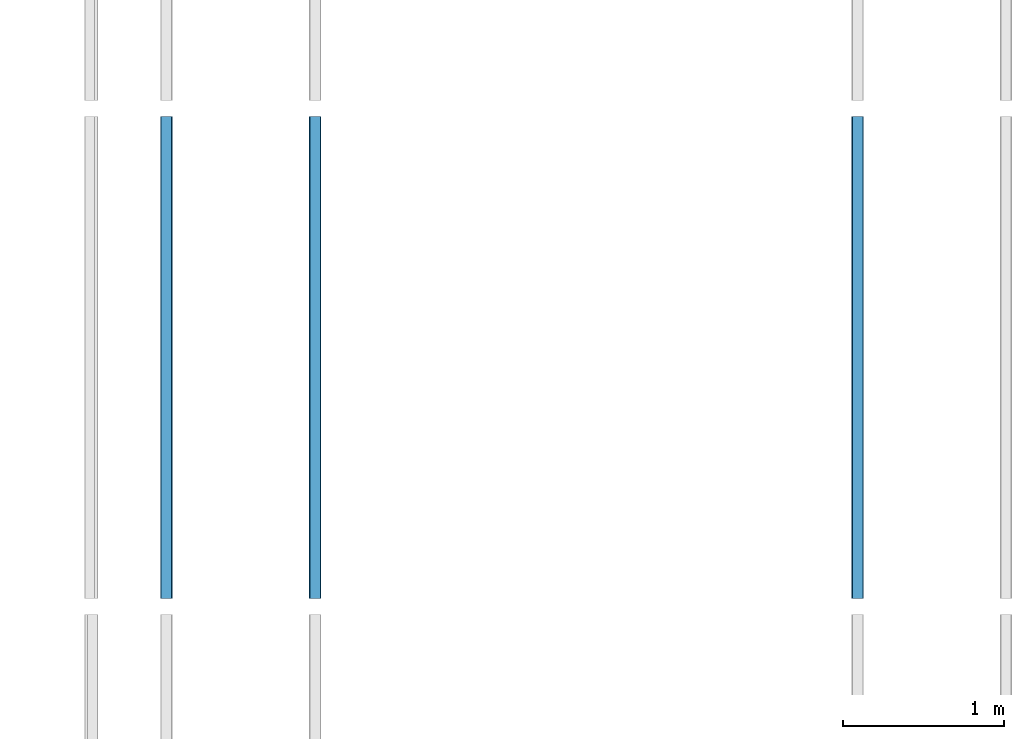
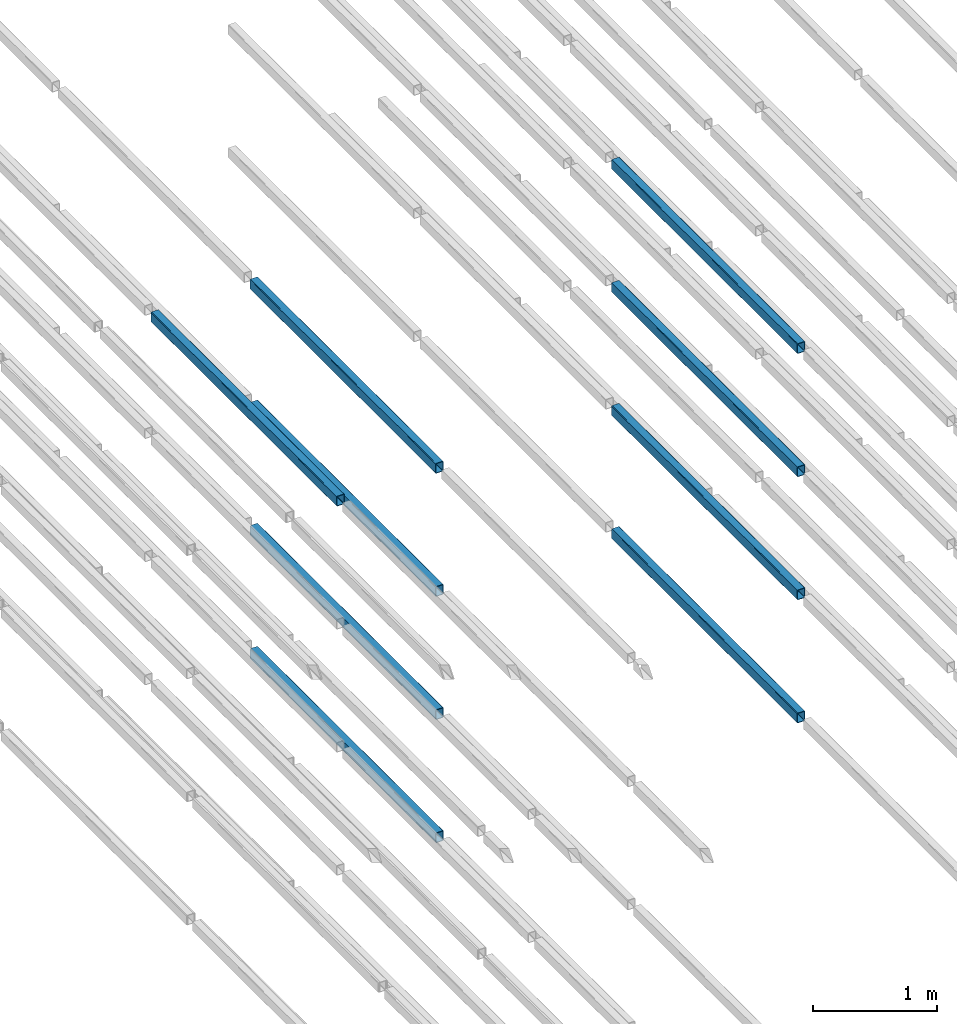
# One storey, part 62 of 290: 9 beams.
"""IFC2X3 building model written with IfcOpenShell, lengths in metres."""

from ifc_helpers import new_model, entity, si_unit, converted_unit, derived_unit, direction, frame, frame_2d, origin, place, context, subcontext, project, spatial, polyline, circle_curve, parameter, trimmed, segment, composite_curve, outline, extrude, material, type_object, element, save


model = new_model("IFC2X3")

# Units and contexts
model_context = context("Model", 3, precision=1e-05, world=origin(), true_north=direction((6.12303176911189e-17, 1.0)))
body_context = subcontext(model_context, "Body", "Model", "MODEL_VIEW")
ifc_project = project(units=[si_unit("LENGTHUNIT", "METRE"), si_unit("AREAUNIT", "SQUARE_METRE"), si_unit("VOLUMEUNIT", "CUBIC_METRE"), converted_unit("PLANEANGLEUNIT", "DEGREE", entity("IfcRatioMeasure", 0.0174532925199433), si_unit("PLANEANGLEUNIT", "RADIAN"), dimensions=[0, 0, 0, 0, 0, 0, 0]), si_unit("MASSUNIT", "GRAM", prefix="KILO"), derived_unit("MASSDENSITYUNIT", [(si_unit("MASSUNIT", "GRAM", prefix="KILO"), 1), (si_unit("LENGTHUNIT", "METRE"), -3)]), derived_unit("MOMENTOFINERTIAUNIT", [(si_unit("LENGTHUNIT", "METRE"), 4)]), si_unit("TIMEUNIT", "SECOND"), si_unit("FREQUENCYUNIT", "HERTZ"), si_unit("THERMODYNAMICTEMPERATUREUNIT", "DEGREE_CELSIUS"), derived_unit("THERMALTRANSMITTANCEUNIT", [(si_unit("MASSUNIT", "GRAM", prefix="KILO"), 1), (si_unit("THERMODYNAMICTEMPERATUREUNIT", "KELVIN"), -1), (si_unit("TIMEUNIT", "SECOND"), -3)]), derived_unit("VOLUMETRICFLOWRATEUNIT", [(si_unit("LENGTHUNIT", "METRE"), 3), (si_unit("TIMEUNIT", "SECOND"), -1)]), si_unit("ELECTRICCURRENTUNIT", "AMPERE"), si_unit("ELECTRICVOLTAGEUNIT", "VOLT"), si_unit("POWERUNIT", "WATT"), si_unit("FORCEUNIT", "NEWTON", prefix="KILO"), si_unit("ILLUMINANCEUNIT", "LUX"), si_unit("LUMINOUSFLUXUNIT", "LUMEN"), si_unit("LUMINOUSINTENSITYUNIT", "CANDELA"), derived_unit("USERDEFINED", [(si_unit("MASSUNIT", "GRAM", prefix="KILO"), -1), (si_unit("LENGTHUNIT", "METRE"), -2), (si_unit("TIMEUNIT", "SECOND"), 3), (si_unit("LUMINOUSFLUXUNIT", "LUMEN"), 1)]), derived_unit("LINEARVELOCITYUNIT", [(si_unit("LENGTHUNIT", "METRE"), 1), (si_unit("TIMEUNIT", "SECOND"), -1)]), si_unit("PRESSUREUNIT", "PASCAL"), derived_unit("USERDEFINED", [(si_unit("LENGTHUNIT", "METRE"), -2), (si_unit("MASSUNIT", "GRAM", prefix="KILO"), 1), (si_unit("TIMEUNIT", "SECOND"), -2)]), derived_unit("LINEARFORCEUNIT", [(si_unit("MASSUNIT", "GRAM", prefix="KILO"), 1), (si_unit("LENGTHUNIT", "METRE"), 1), (si_unit("TIMEUNIT", "SECOND"), -2), (si_unit("LENGTHUNIT", "METRE"), -1)]), derived_unit("PLANARFORCEUNIT", [(si_unit("MASSUNIT", "GRAM", prefix="KILO"), 1), (si_unit("LENGTHUNIT", "METRE"), 1), (si_unit("TIMEUNIT", "SECOND"), -2), (si_unit("LENGTHUNIT", "METRE"), -2)])], contexts=[model_context])

# Site, building, storey
site_placement = place(None, origin())
site = spatial("IfcSite", under=ifc_project, at=site_placement, Name="Default", CompositionType="ELEMENT")
building_placement = place(site_placement, origin())
building = spatial("IfcBuilding", under=site, at=building_placement, CompositionType="ELEMENT")
storey_placement = place(building_placement, frame((0.0, 0.0, 4.0)))
storey = spatial("IfcBuildingStorey", under=building, at=storey_placement, Name="01_OG", CompositionType="ELEMENT", Elevation=4.0)

# Beams
ifc_material = material(Name="Metall - Baustahl S235 blau")
beam_type = type_object("IfcBeamType", Name="RHS Träger (EN 10219-2):RHS 100 x 75 x 5", PredefinedType="NOTDEFINED")
beam_1_placement = place(storey_placement, frame((-196.415111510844, 42.648088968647, -1.2), z_axis=(0.0, 0.0, 1.0), x_axis=(0.0, 1.0, 0.0)))
element("IfcBeam", 1, at=beam_1_placement, inside=storey, type_object=beam_type, material=ifc_material, Name="RHS Träger (EN 10219-2):RHS 100 x 75 x 5", ObjectType="RHS Träger (EN 10219-2):RHS 100 x 75 x 5", context=body_context, shape_type="SweptSolid", body=[
    extrude(outline(composite_curve([segment(trimmed(circle_curve(frame_2d((-0.0274999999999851, -0.0400000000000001), x_axis=(1.0, 0.0)), 0.01), [parameter(180.0)], [parameter(270.0)], True, "PARAMETER"), True, "CONTINUOUS"), segment(polyline([(-0.0274999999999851, -0.05), (0.0274999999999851, -0.05)]), True, "CONTINUOUS"), segment(trimmed(circle_curve(frame_2d((0.0274999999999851, -0.0400000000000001), x_axis=(1.0, 0.0)), 0.01), [parameter(270.0)], [parameter(5.08888749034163e-14)], True, "PARAMETER"), True, "CONTINUOUS"), segment(polyline([(0.0375000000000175, -0.0400000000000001), (0.0375000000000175, 0.0400000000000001)]), True, "CONTINUOUS"), segment(trimmed(circle_curve(frame_2d((0.0274999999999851, 0.0400000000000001), x_axis=(1.0, 0.0)), 0.01), [parameter(360.0)], [parameter(89.9999999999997)], True, "PARAMETER"), True, "CONTINUOUS"), segment(polyline([(0.0274999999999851, 0.05), (-0.0274999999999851, 0.05)]), True, "CONTINUOUS"), segment(trimmed(circle_curve(frame_2d((-0.0274999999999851, 0.0400000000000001), x_axis=(1.0, 0.0)), 0.01), [parameter(90.0000000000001)], [parameter(180.0)], True, "PARAMETER"), True, "CONTINUOUS"), segment(polyline([(-0.0374999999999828, 0.0400000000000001), (-0.0374999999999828, -0.0400000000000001)]), True, "CONTINUOUS")], self_intersect=False), holes=[composite_curve([segment(polyline([(0.0274999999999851, -0.0450000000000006), (-0.0274999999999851, -0.0450000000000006)]), True, "CONTINUOUS"), segment(trimmed(circle_curve(frame_2d((-0.0274999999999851, -0.0400000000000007), x_axis=(1.0, 0.0)), 0.005), [parameter(180.0)], [parameter(270.0)], True, "PARAMETER"), False, "CONTINUOUS"), segment(polyline([(-0.0325000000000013, -0.0400000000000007), (-0.0325000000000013, 0.039999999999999)]), True, "CONTINUOUS"), segment(trimmed(circle_curve(frame_2d((-0.0274999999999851, 0.039999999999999), x_axis=(1.0, 0.0)), 0.005), [parameter(90.0000000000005)], [parameter(180.0)], True, "PARAMETER"), False, "CONTINUOUS"), segment(polyline([(-0.0274999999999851, 0.044999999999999), (0.0274999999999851, 0.044999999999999)]), True, "CONTINUOUS"), segment(trimmed(circle_curve(frame_2d((0.0274999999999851, 0.039999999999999), x_axis=(1.0, 0.0)), 0.005), [parameter(0.0)], [parameter(90.0000000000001)], True, "PARAMETER"), False, "CONTINUOUS"), segment(polyline([(0.0325000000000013, 0.039999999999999), (0.0325000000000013, -0.0400000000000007)]), True, "CONTINUOUS"), segment(trimmed(circle_curve(frame_2d((0.0274999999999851, -0.0400000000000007), x_axis=(1.0, 0.0)), 0.005), [parameter(270.0)], [parameter(4.07110999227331e-13)], True, "PARAMETER"), False, "CONTINUOUS")], self_intersect=False)]), frame((9.99999999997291e-05, 0.0375000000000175, -0.0500000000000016), z_axis=(1.0, 0.0, 0.0), x_axis=(0.0, -1.0, 0.0)), (0.0, 0.0, 1.0), 2.99979999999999),
])
beam_2_placement = place(storey_placement, frame((-196.415111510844, 42.648088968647, 0.0150000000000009), z_axis=(0.0, 0.0, 1.0), x_axis=(0.0, 1.0, 0.0)))
element("IfcBeam", 2, at=beam_2_placement, inside=storey, type_object=beam_type, material=ifc_material, Name="RHS Träger (EN 10219-2):RHS 100 x 75 x 5", ObjectType="RHS Träger (EN 10219-2):RHS 100 x 75 x 5", context=body_context, shape_type="SweptSolid", body=[
    extrude(outline(composite_curve([segment(trimmed(circle_curve(frame_2d((-0.0274999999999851, -0.0400000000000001), x_axis=(1.0, 0.0)), 0.01), [parameter(180.0)], [parameter(270.0)], True, "PARAMETER"), True, "CONTINUOUS"), segment(polyline([(-0.0274999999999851, -0.05), (0.0274999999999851, -0.05)]), True, "CONTINUOUS"), segment(trimmed(circle_curve(frame_2d((0.0274999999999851, -0.0400000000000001), x_axis=(1.0, 0.0)), 0.01), [parameter(270.0)], [parameter(5.08888749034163e-14)], True, "PARAMETER"), True, "CONTINUOUS"), segment(polyline([(0.0375000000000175, -0.0400000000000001), (0.0375000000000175, 0.0400000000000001)]), True, "CONTINUOUS"), segment(trimmed(circle_curve(frame_2d((0.0274999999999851, 0.0400000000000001), x_axis=(1.0, 0.0)), 0.01), [parameter(360.0)], [parameter(89.9999999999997)], True, "PARAMETER"), True, "CONTINUOUS"), segment(polyline([(0.0274999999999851, 0.05), (-0.0274999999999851, 0.05)]), True, "CONTINUOUS"), segment(trimmed(circle_curve(frame_2d((-0.0274999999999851, 0.0400000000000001), x_axis=(1.0, 0.0)), 0.01), [parameter(90.0000000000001)], [parameter(180.0)], True, "PARAMETER"), True, "CONTINUOUS"), segment(polyline([(-0.0374999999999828, 0.0400000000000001), (-0.0374999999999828, -0.0400000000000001)]), True, "CONTINUOUS")], self_intersect=False), holes=[composite_curve([segment(polyline([(0.0274999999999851, -0.0450000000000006), (-0.0274999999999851, -0.0450000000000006)]), True, "CONTINUOUS"), segment(trimmed(circle_curve(frame_2d((-0.0274999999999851, -0.0400000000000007), x_axis=(1.0, 0.0)), 0.005), [parameter(180.0)], [parameter(270.0)], True, "PARAMETER"), False, "CONTINUOUS"), segment(polyline([(-0.0325000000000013, -0.0400000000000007), (-0.0325000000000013, 0.039999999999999)]), True, "CONTINUOUS"), segment(trimmed(circle_curve(frame_2d((-0.0274999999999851, 0.039999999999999), x_axis=(1.0, 0.0)), 0.005), [parameter(90.0000000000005)], [parameter(180.0)], True, "PARAMETER"), False, "CONTINUOUS"), segment(polyline([(-0.0274999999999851, 0.044999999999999), (0.0274999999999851, 0.044999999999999)]), True, "CONTINUOUS"), segment(trimmed(circle_curve(frame_2d((0.0274999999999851, 0.039999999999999), x_axis=(1.0, 0.0)), 0.005), [parameter(0.0)], [parameter(90.0000000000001)], True, "PARAMETER"), False, "CONTINUOUS"), segment(polyline([(0.0325000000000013, 0.039999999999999), (0.0325000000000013, -0.0400000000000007)]), True, "CONTINUOUS"), segment(trimmed(circle_curve(frame_2d((0.0274999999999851, -0.0400000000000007), x_axis=(1.0, 0.0)), 0.005), [parameter(270.0)], [parameter(4.07110999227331e-13)], True, "PARAMETER"), False, "CONTINUOUS")], self_intersect=False)]), frame((9.99999999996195e-05, 0.0375000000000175, -0.0500000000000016), z_axis=(1.0, 0.0, 0.0), x_axis=(0.0, -1.0, 0.0)), (0.0, 0.0, 1.0), 2.99979999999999),
])
beam_3_placement = place(storey_placement, frame((-196.415111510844, 42.648088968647, 1.23), z_axis=(0.0, 0.0, 1.0), x_axis=(0.0, 1.0, 0.0)))
element("IfcBeam", 3, at=beam_3_placement, inside=storey, type_object=beam_type, material=ifc_material, Name="RHS Träger (EN 10219-2):RHS 100 x 75 x 5", ObjectType="RHS Träger (EN 10219-2):RHS 100 x 75 x 5", context=body_context, shape_type="SweptSolid", body=[
    extrude(outline(composite_curve([segment(trimmed(circle_curve(frame_2d((-0.0274999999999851, -0.0399999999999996), x_axis=(1.0, 0.0)), 0.01), [parameter(180.0)], [parameter(270.0)], True, "PARAMETER"), True, "CONTINUOUS"), segment(polyline([(-0.0274999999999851, -0.0499999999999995), (0.0274999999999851, -0.0499999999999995)]), True, "CONTINUOUS"), segment(trimmed(circle_curve(frame_2d((0.0274999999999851, -0.0399999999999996), x_axis=(1.0, 0.0)), 0.01), [parameter(270.0)], [parameter(5.08888749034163e-14)], True, "PARAMETER"), True, "CONTINUOUS"), segment(polyline([(0.0375000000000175, -0.0399999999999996), (0.0375000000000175, 0.0399999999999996)]), True, "CONTINUOUS"), segment(trimmed(circle_curve(frame_2d((0.0274999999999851, 0.0399999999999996), x_axis=(1.0, 0.0)), 0.01), [parameter(360.0)], [parameter(89.9999999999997)], True, "PARAMETER"), True, "CONTINUOUS"), segment(polyline([(0.0274999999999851, 0.0500000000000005), (-0.0274999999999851, 0.0500000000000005)]), True, "CONTINUOUS"), segment(trimmed(circle_curve(frame_2d((-0.0274999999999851, 0.0399999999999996), x_axis=(1.0, 0.0)), 0.01), [parameter(90.0000000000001)], [parameter(180.0)], True, "PARAMETER"), True, "CONTINUOUS"), segment(polyline([(-0.0374999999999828, 0.0399999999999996), (-0.0374999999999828, -0.0399999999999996)]), True, "CONTINUOUS")], self_intersect=False), holes=[composite_curve([segment(polyline([(0.0274999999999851, -0.0450000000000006), (-0.0274999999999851, -0.0450000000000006)]), True, "CONTINUOUS"), segment(trimmed(circle_curve(frame_2d((-0.0274999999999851, -0.0400000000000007), x_axis=(1.0, 0.0)), 0.005), [parameter(180.0)], [parameter(270.0)], True, "PARAMETER"), False, "CONTINUOUS"), segment(polyline([(-0.0325000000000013, -0.0400000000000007), (-0.0325000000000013, 0.0399999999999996)]), True, "CONTINUOUS"), segment(trimmed(circle_curve(frame_2d((-0.0274999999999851, 0.0399999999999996), x_axis=(1.0, 0.0)), 0.005), [parameter(90.0000000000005)], [parameter(180.0)], True, "PARAMETER"), False, "CONTINUOUS"), segment(polyline([(-0.0274999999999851, 0.0449999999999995), (0.0274999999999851, 0.0449999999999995)]), True, "CONTINUOUS"), segment(trimmed(circle_curve(frame_2d((0.0274999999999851, 0.0399999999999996), x_axis=(1.0, 0.0)), 0.005), [parameter(0.0)], [parameter(90.0000000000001)], True, "PARAMETER"), False, "CONTINUOUS"), segment(polyline([(0.0325000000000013, 0.0399999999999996), (0.0325000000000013, -0.0400000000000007)]), True, "CONTINUOUS"), segment(trimmed(circle_curve(frame_2d((0.0274999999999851, -0.0400000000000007), x_axis=(1.0, 0.0)), 0.005), [parameter(270.0)], [parameter(4.07110999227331e-13)], True, "PARAMETER"), False, "CONTINUOUS")], self_intersect=False)]), frame((9.99999999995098e-05, 0.0375000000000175, -0.0500000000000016), z_axis=(1.0, 0.0, 0.0), x_axis=(0.0, -1.0, 0.0)), (0.0, 0.0, 1.0), 2.99979999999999),
])
beam_4_placement = place(storey_placement, frame((-196.415111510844, 42.648088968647, 2.445), z_axis=(0.0, 0.0, 1.0), x_axis=(0.0, 1.0, 0.0)))
element("IfcBeam", 4, at=beam_4_placement, inside=storey, type_object=beam_type, material=ifc_material, Name="RHS Träger (EN 10219-2):RHS 100 x 75 x 5", ObjectType="RHS Träger (EN 10219-2):RHS 100 x 75 x 5", context=body_context, shape_type="SweptSolid", body=[
    extrude(outline(composite_curve([segment(trimmed(circle_curve(frame_2d((-0.0274999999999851, -0.0399999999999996), x_axis=(1.0, 0.0)), 0.01), [parameter(180.0)], [parameter(270.0)], True, "PARAMETER"), True, "CONTINUOUS"), segment(polyline([(-0.0274999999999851, -0.0499999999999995), (0.0274999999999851, -0.0499999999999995)]), True, "CONTINUOUS"), segment(trimmed(circle_curve(frame_2d((0.0274999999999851, -0.0399999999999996), x_axis=(1.0, 0.0)), 0.01), [parameter(270.0)], [parameter(5.08888749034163e-14)], True, "PARAMETER"), True, "CONTINUOUS"), segment(polyline([(0.0375000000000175, -0.0399999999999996), (0.0375000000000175, 0.0399999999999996)]), True, "CONTINUOUS"), segment(trimmed(circle_curve(frame_2d((0.0274999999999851, 0.0399999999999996), x_axis=(1.0, 0.0)), 0.01), [parameter(360.0)], [parameter(89.9999999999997)], True, "PARAMETER"), True, "CONTINUOUS"), segment(polyline([(0.0274999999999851, 0.0500000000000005), (-0.0274999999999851, 0.0500000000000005)]), True, "CONTINUOUS"), segment(trimmed(circle_curve(frame_2d((-0.0274999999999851, 0.0399999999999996), x_axis=(1.0, 0.0)), 0.01), [parameter(90.0000000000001)], [parameter(180.0)], True, "PARAMETER"), True, "CONTINUOUS"), segment(polyline([(-0.0374999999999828, 0.0399999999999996), (-0.0374999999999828, -0.0399999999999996)]), True, "CONTINUOUS")], self_intersect=False), holes=[composite_curve([segment(polyline([(0.0274999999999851, -0.0450000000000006), (-0.0274999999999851, -0.0450000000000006)]), True, "CONTINUOUS"), segment(trimmed(circle_curve(frame_2d((-0.0274999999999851, -0.0400000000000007), x_axis=(1.0, 0.0)), 0.005), [parameter(180.0)], [parameter(270.0)], True, "PARAMETER"), False, "CONTINUOUS"), segment(polyline([(-0.0325000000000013, -0.0400000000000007), (-0.0325000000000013, 0.0399999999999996)]), True, "CONTINUOUS"), segment(trimmed(circle_curve(frame_2d((-0.0274999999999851, 0.0399999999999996), x_axis=(1.0, 0.0)), 0.005), [parameter(90.0000000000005)], [parameter(180.0)], True, "PARAMETER"), False, "CONTINUOUS"), segment(polyline([(-0.0274999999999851, 0.0449999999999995), (0.0274999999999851, 0.0449999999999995)]), True, "CONTINUOUS"), segment(trimmed(circle_curve(frame_2d((0.0274999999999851, 0.0399999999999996), x_axis=(1.0, 0.0)), 0.005), [parameter(0.0)], [parameter(90.0000000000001)], True, "PARAMETER"), False, "CONTINUOUS"), segment(polyline([(0.0325000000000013, 0.0399999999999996), (0.0325000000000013, -0.0400000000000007)]), True, "CONTINUOUS"), segment(trimmed(circle_curve(frame_2d((0.0274999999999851, -0.0400000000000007), x_axis=(1.0, 0.0)), 0.005), [parameter(270.0)], [parameter(4.07110999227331e-13)], True, "PARAMETER"), False, "CONTINUOUS")], self_intersect=False)]), frame((9.99999999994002e-05, 0.0375000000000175, -0.0500000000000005), z_axis=(1.0, 0.0, 0.0), x_axis=(0.0, -1.0, 0.0)), (0.0, 0.0, 1.0), 2.99979999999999),
])
beam_5_placement = place(storey_placement, frame((-200.715111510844, 42.648088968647, 2.445), z_axis=(0.0, 0.0, 1.0), x_axis=(0.0, 1.0, 0.0)))
element("IfcBeam", 5, at=beam_5_placement, inside=storey, type_object=beam_type, material=ifc_material, Name="RHS Träger (EN 10219-2):RHS 100 x 75 x 5", ObjectType="RHS Träger (EN 10219-2):RHS 100 x 75 x 5", context=body_context, shape_type="SweptSolid", body=[
    extrude(outline(composite_curve([segment(trimmed(circle_curve(frame_2d((-0.0274999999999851, -0.0399999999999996), x_axis=(1.0, 0.0)), 0.01), [parameter(180.0)], [parameter(270.0)], True, "PARAMETER"), True, "CONTINUOUS"), segment(polyline([(-0.0274999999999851, -0.0499999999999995), (0.0274999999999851, -0.0499999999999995)]), True, "CONTINUOUS"), segment(trimmed(circle_curve(frame_2d((0.0274999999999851, -0.0399999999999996), x_axis=(1.0, 0.0)), 0.01), [parameter(270.0)], [parameter(5.08888749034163e-14)], True, "PARAMETER"), True, "CONTINUOUS"), segment(polyline([(0.0375000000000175, -0.0399999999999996), (0.0375000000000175, 0.0399999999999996)]), True, "CONTINUOUS"), segment(trimmed(circle_curve(frame_2d((0.0274999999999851, 0.0399999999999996), x_axis=(1.0, 0.0)), 0.01), [parameter(360.0)], [parameter(89.9999999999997)], True, "PARAMETER"), True, "CONTINUOUS"), segment(polyline([(0.0274999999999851, 0.0500000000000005), (-0.0274999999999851, 0.0500000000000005)]), True, "CONTINUOUS"), segment(trimmed(circle_curve(frame_2d((-0.0274999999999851, 0.0399999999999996), x_axis=(1.0, 0.0)), 0.01), [parameter(90.0000000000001)], [parameter(180.0)], True, "PARAMETER"), True, "CONTINUOUS"), segment(polyline([(-0.0374999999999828, 0.0399999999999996), (-0.0374999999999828, -0.0399999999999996)]), True, "CONTINUOUS")], self_intersect=False), holes=[composite_curve([segment(polyline([(0.0274999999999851, -0.0450000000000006), (-0.0274999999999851, -0.0450000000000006)]), True, "CONTINUOUS"), segment(trimmed(circle_curve(frame_2d((-0.0274999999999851, -0.0400000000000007), x_axis=(1.0, 0.0)), 0.005), [parameter(180.0)], [parameter(270.0)], True, "PARAMETER"), False, "CONTINUOUS"), segment(polyline([(-0.0325000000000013, -0.0400000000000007), (-0.0325000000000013, 0.0399999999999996)]), True, "CONTINUOUS"), segment(trimmed(circle_curve(frame_2d((-0.0274999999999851, 0.0399999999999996), x_axis=(1.0, 0.0)), 0.005), [parameter(90.0000000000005)], [parameter(180.0)], True, "PARAMETER"), False, "CONTINUOUS"), segment(polyline([(-0.0274999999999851, 0.0449999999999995), (0.0274999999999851, 0.0449999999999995)]), True, "CONTINUOUS"), segment(trimmed(circle_curve(frame_2d((0.0274999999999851, 0.0399999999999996), x_axis=(1.0, 0.0)), 0.005), [parameter(0.0)], [parameter(90.0000000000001)], True, "PARAMETER"), False, "CONTINUOUS"), segment(polyline([(0.0325000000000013, 0.0399999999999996), (0.0325000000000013, -0.0400000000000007)]), True, "CONTINUOUS"), segment(trimmed(circle_curve(frame_2d((0.0274999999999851, -0.0400000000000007), x_axis=(1.0, 0.0)), 0.005), [parameter(270.0)], [parameter(4.07110999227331e-13)], True, "PARAMETER"), False, "CONTINUOUS")], self_intersect=False)]), frame((0.000100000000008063, 0.0375000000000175, -0.0500000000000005), z_axis=(1.0, 0.0, 0.0), x_axis=(0.0, -1.0, 0.0)), (0.0, 0.0, 1.0), 2.99979999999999),
])
beam_6_placement = place(storey_placement, frame((-199.865111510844, 42.648088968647, -1.2), z_axis=(0.0, 0.0, 1.0), x_axis=(0.0, 1.0, 0.0)))
element("IfcBeam", 6, at=beam_6_placement, inside=storey, type_object=beam_type, material=ifc_material, Name="RHS Träger (EN 10219-2):RHS 100 x 75 x 5", ObjectType="RHS Träger (EN 10219-2):RHS 100 x 75 x 5", context=body_context, shape_type="SweptSolid", body=[
    extrude(outline(composite_curve([segment(polyline([(-0.0400000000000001, -0.0374999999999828), (0.0400000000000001, -0.0374999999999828)]), True, "CONTINUOUS"), segment(trimmed(circle_curve(frame_2d((0.0400000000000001, -0.0274999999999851), x_axis=(0.0, 1.0)), 0.01), [parameter(180.0)], [parameter(270.0)], True, "PARAMETER"), True, "CONTINUOUS"), segment(polyline([(0.05, -0.0274999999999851), (0.05, 0.0274999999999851)]), True, "CONTINUOUS"), segment(trimmed(circle_curve(frame_2d((0.0400000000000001, 0.0274999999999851), x_axis=(0.0, 1.0)), 0.01), [parameter(270.0)], [parameter(4.07110999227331e-13)], True, "PARAMETER"), True, "CONTINUOUS"), segment(polyline([(0.0400000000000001, 0.0375000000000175), (-0.0400000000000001, 0.0375000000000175)]), True, "CONTINUOUS"), segment(trimmed(circle_curve(frame_2d((-0.0400000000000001, 0.0274999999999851), x_axis=(0.0, 1.0)), 0.01), [parameter(360.0)], [parameter(90.0000000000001)], True, "PARAMETER"), True, "CONTINUOUS"), segment(polyline([(-0.05, 0.0274999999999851), (-0.05, -0.0274999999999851)]), True, "CONTINUOUS"), segment(trimmed(circle_curve(frame_2d((-0.0400000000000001, -0.0274999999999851), x_axis=(0.0, 1.0)), 0.01), [parameter(90.0000000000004)], [parameter(180.0)], True, "PARAMETER"), True, "CONTINUOUS")], self_intersect=False), holes=[composite_curve([segment(trimmed(circle_curve(frame_2d((-0.0400000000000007, 0.0274999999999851), x_axis=(0.0, 1.0)), 0.005), [parameter(360.0)], [parameter(89.9999999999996)], True, "PARAMETER"), False, "CONTINUOUS"), segment(polyline([(-0.0400000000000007, 0.0325000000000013), (0.039999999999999, 0.0325000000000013)]), True, "CONTINUOUS"), segment(trimmed(circle_curve(frame_2d((0.039999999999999, 0.0274999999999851), x_axis=(0.0, 1.0)), 0.005), [parameter(270.0)], [parameter(0.0)], True, "PARAMETER"), False, "CONTINUOUS"), segment(polyline([(0.044999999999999, 0.0274999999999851), (0.044999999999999, -0.0274999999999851)]), True, "CONTINUOUS"), segment(trimmed(circle_curve(frame_2d((0.039999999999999, -0.0274999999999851), x_axis=(0.0, 1.0)), 0.005), [parameter(180.0)], [parameter(269.999999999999)], True, "PARAMETER"), False, "CONTINUOUS"), segment(polyline([(0.039999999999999, -0.0325000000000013), (-0.0400000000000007, -0.0325000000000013)]), True, "CONTINUOUS"), segment(trimmed(circle_curve(frame_2d((-0.0400000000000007, -0.0274999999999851), x_axis=(0.0, 1.0)), 0.005), [parameter(90.0000000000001)], [parameter(180.0)], True, "PARAMETER"), False, "CONTINUOUS"), segment(polyline([(-0.0450000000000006, -0.0274999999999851), (-0.0450000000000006, 0.0274999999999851)]), True, "CONTINUOUS")], self_intersect=False)]), frame((0.000100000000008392, -0.0375000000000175, -0.0500000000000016), z_axis=(1.0, 0.0, 0.0), x_axis=(0.0, 0.0, -1.0)), (0.0, 0.0, 1.0), 2.99979999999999),
])
beam_7_placement = place(storey_placement, frame((-199.865111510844, 42.648088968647, 0.0150000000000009), z_axis=(0.0, 0.0, 1.0), x_axis=(0.0, 1.0, 0.0)))
element("IfcBeam", 7, at=beam_7_placement, inside=storey, type_object=beam_type, material=ifc_material, Name="RHS Träger (EN 10219-2):RHS 100 x 75 x 5", ObjectType="RHS Träger (EN 10219-2):RHS 100 x 75 x 5", context=body_context, shape_type="SweptSolid", body=[
    extrude(outline(composite_curve([segment(polyline([(-0.0400000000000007, -0.0374999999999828), (0.0399999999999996, -0.0374999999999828)]), True, "CONTINUOUS"), segment(trimmed(circle_curve(frame_2d((0.0399999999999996, -0.0274999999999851), x_axis=(0.0, 1.0)), 0.01), [parameter(180.0)], [parameter(270.0)], True, "PARAMETER"), True, "CONTINUOUS"), segment(polyline([(0.0499999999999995, -0.0274999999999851), (0.0499999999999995, 0.0274999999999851)]), True, "CONTINUOUS"), segment(trimmed(circle_curve(frame_2d((0.0399999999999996, 0.0274999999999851), x_axis=(0.0, 1.0)), 0.01), [parameter(270.0)], [parameter(4.07110999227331e-13)], True, "PARAMETER"), True, "CONTINUOUS"), segment(polyline([(0.0399999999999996, 0.0375000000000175), (-0.0400000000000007, 0.0375000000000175)]), True, "CONTINUOUS"), segment(trimmed(circle_curve(frame_2d((-0.0400000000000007, 0.0274999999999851), x_axis=(0.0, 1.0)), 0.01), [parameter(360.0)], [parameter(90.0000000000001)], True, "PARAMETER"), True, "CONTINUOUS"), segment(polyline([(-0.0500000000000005, 0.0274999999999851), (-0.0500000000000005, -0.0274999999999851)]), True, "CONTINUOUS"), segment(trimmed(circle_curve(frame_2d((-0.0400000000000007, -0.0274999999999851), x_axis=(0.0, 1.0)), 0.01), [parameter(90.0000000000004)], [parameter(180.0)], True, "PARAMETER"), True, "CONTINUOUS")], self_intersect=False), holes=[composite_curve([segment(trimmed(circle_curve(frame_2d((-0.0400000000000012, 0.0274999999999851), x_axis=(0.0, 1.0)), 0.005), [parameter(360.0)], [parameter(89.9999999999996)], True, "PARAMETER"), False, "CONTINUOUS"), segment(polyline([(-0.0400000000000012, 0.0325000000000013), (0.0399999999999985, 0.0325000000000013)]), True, "CONTINUOUS"), segment(trimmed(circle_curve(frame_2d((0.0399999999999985, 0.0274999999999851), x_axis=(0.0, 1.0)), 0.005), [parameter(270.0)], [parameter(0.0)], True, "PARAMETER"), False, "CONTINUOUS"), segment(polyline([(0.0449999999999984, 0.0274999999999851), (0.0449999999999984, -0.0274999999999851)]), True, "CONTINUOUS"), segment(trimmed(circle_curve(frame_2d((0.0399999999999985, -0.0274999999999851), x_axis=(0.0, 1.0)), 0.005), [parameter(180.0)], [parameter(269.999999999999)], True, "PARAMETER"), False, "CONTINUOUS"), segment(polyline([(0.0399999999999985, -0.0325000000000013), (-0.0400000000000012, -0.0325000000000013)]), True, "CONTINUOUS"), segment(trimmed(circle_curve(frame_2d((-0.0400000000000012, -0.0274999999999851), x_axis=(0.0, 1.0)), 0.005), [parameter(90.0000000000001)], [parameter(180.0)], True, "PARAMETER"), False, "CONTINUOUS"), segment(polyline([(-0.0450000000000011, -0.0274999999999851), (-0.0450000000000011, 0.0274999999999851)]), True, "CONTINUOUS")], self_intersect=False)]), frame((0.000100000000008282, -0.0375000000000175, -0.0500000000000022), z_axis=(1.0, 0.0, 0.0), x_axis=(0.0, 0.0, -1.0)), (0.0, 0.0, 1.0), 2.99979999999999),
])
beam_8_placement = place(storey_placement, frame((-199.865111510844, 42.648088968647, 1.23), z_axis=(0.0, 0.0, 1.0), x_axis=(0.0, 1.0, 0.0)))
element("IfcBeam", 8, at=beam_8_placement, inside=storey, type_object=beam_type, material=ifc_material, Name="RHS Träger (EN 10219-2):RHS 100 x 75 x 5", ObjectType="RHS Träger (EN 10219-2):RHS 100 x 75 x 5", context=body_context, shape_type="SweptSolid", body=[
    extrude(outline(composite_curve([segment(polyline([(-0.0399999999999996, -0.0374999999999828), (0.0399999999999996, -0.0374999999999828)]), True, "CONTINUOUS"), segment(trimmed(circle_curve(frame_2d((0.0399999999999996, -0.0274999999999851), x_axis=(0.0, 1.0)), 0.01), [parameter(180.0)], [parameter(270.0)], True, "PARAMETER"), True, "CONTINUOUS"), segment(polyline([(0.0500000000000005, -0.0274999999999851), (0.0500000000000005, 0.0274999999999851)]), True, "CONTINUOUS"), segment(trimmed(circle_curve(frame_2d((0.0399999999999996, 0.0274999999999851), x_axis=(0.0, 1.0)), 0.01), [parameter(270.0)], [parameter(4.07110999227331e-13)], True, "PARAMETER"), True, "CONTINUOUS"), segment(polyline([(0.0399999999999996, 0.0375000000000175), (-0.0399999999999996, 0.0375000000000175)]), True, "CONTINUOUS"), segment(trimmed(circle_curve(frame_2d((-0.0399999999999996, 0.0274999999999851), x_axis=(0.0, 1.0)), 0.01), [parameter(360.0)], [parameter(90.0000000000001)], True, "PARAMETER"), True, "CONTINUOUS"), segment(polyline([(-0.0499999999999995, 0.0274999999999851), (-0.0499999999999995, -0.0274999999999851)]), True, "CONTINUOUS"), segment(trimmed(circle_curve(frame_2d((-0.0399999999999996, -0.0274999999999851), x_axis=(0.0, 1.0)), 0.01), [parameter(90.0000000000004)], [parameter(180.0)], True, "PARAMETER"), True, "CONTINUOUS")], self_intersect=False), holes=[composite_curve([segment(trimmed(circle_curve(frame_2d((-0.0400000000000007, 0.0274999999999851), x_axis=(0.0, 1.0)), 0.005), [parameter(360.0)], [parameter(89.9999999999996)], True, "PARAMETER"), False, "CONTINUOUS"), segment(polyline([(-0.0400000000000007, 0.0325000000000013), (0.0399999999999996, 0.0325000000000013)]), True, "CONTINUOUS"), segment(trimmed(circle_curve(frame_2d((0.0399999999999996, 0.0274999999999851), x_axis=(0.0, 1.0)), 0.005), [parameter(270.0)], [parameter(0.0)], True, "PARAMETER"), False, "CONTINUOUS"), segment(polyline([(0.0449999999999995, 0.0274999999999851), (0.0449999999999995, -0.0274999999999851)]), True, "CONTINUOUS"), segment(trimmed(circle_curve(frame_2d((0.0399999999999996, -0.0274999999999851), x_axis=(0.0, 1.0)), 0.005), [parameter(180.0)], [parameter(269.999999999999)], True, "PARAMETER"), False, "CONTINUOUS"), segment(polyline([(0.0399999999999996, -0.0325000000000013), (-0.0400000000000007, -0.0325000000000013)]), True, "CONTINUOUS"), segment(trimmed(circle_curve(frame_2d((-0.0400000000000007, -0.0274999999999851), x_axis=(0.0, 1.0)), 0.005), [parameter(90.0000000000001)], [parameter(180.0)], True, "PARAMETER"), False, "CONTINUOUS"), segment(polyline([(-0.0450000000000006, -0.0274999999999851), (-0.0450000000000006, 0.0274999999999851)]), True, "CONTINUOUS")], self_intersect=False)]), frame((0.000100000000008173, -0.0375000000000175, -0.0500000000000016), z_axis=(1.0, 0.0, 0.0), x_axis=(0.0, 0.0, -1.0)), (0.0, 0.0, 1.0), 2.99979999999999),
])
beam_9_placement = place(storey_placement, frame((-199.865111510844, 42.648088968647, 2.445), z_axis=(0.0, 0.0, 1.0), x_axis=(0.0, 1.0, 0.0)))
element("IfcBeam", 9, at=beam_9_placement, inside=storey, type_object=beam_type, material=ifc_material, Name="RHS Träger (EN 10219-2):RHS 100 x 75 x 5", ObjectType="RHS Träger (EN 10219-2):RHS 100 x 75 x 5", context=body_context, shape_type="SweptSolid", body=[
    extrude(outline(composite_curve([segment(polyline([(-0.0399999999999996, -0.0374999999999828), (0.0399999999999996, -0.0374999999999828)]), True, "CONTINUOUS"), segment(trimmed(circle_curve(frame_2d((0.0399999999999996, -0.0274999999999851), x_axis=(0.0, 1.0)), 0.01), [parameter(180.0)], [parameter(270.0)], True, "PARAMETER"), True, "CONTINUOUS"), segment(polyline([(0.0500000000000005, -0.0274999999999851), (0.0500000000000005, 0.0274999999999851)]), True, "CONTINUOUS"), segment(trimmed(circle_curve(frame_2d((0.0399999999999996, 0.0274999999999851), x_axis=(0.0, 1.0)), 0.01), [parameter(270.0)], [parameter(4.07110999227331e-13)], True, "PARAMETER"), True, "CONTINUOUS"), segment(polyline([(0.0399999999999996, 0.0375000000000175), (-0.0399999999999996, 0.0375000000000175)]), True, "CONTINUOUS"), segment(trimmed(circle_curve(frame_2d((-0.0399999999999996, 0.0274999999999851), x_axis=(0.0, 1.0)), 0.01), [parameter(360.0)], [parameter(90.0000000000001)], True, "PARAMETER"), True, "CONTINUOUS"), segment(polyline([(-0.0499999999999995, 0.0274999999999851), (-0.0499999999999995, -0.0274999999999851)]), True, "CONTINUOUS"), segment(trimmed(circle_curve(frame_2d((-0.0399999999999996, -0.0274999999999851), x_axis=(0.0, 1.0)), 0.01), [parameter(90.0000000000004)], [parameter(180.0)], True, "PARAMETER"), True, "CONTINUOUS")], self_intersect=False), holes=[composite_curve([segment(trimmed(circle_curve(frame_2d((-0.0400000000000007, 0.0274999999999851), x_axis=(0.0, 1.0)), 0.005), [parameter(360.0)], [parameter(89.9999999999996)], True, "PARAMETER"), False, "CONTINUOUS"), segment(polyline([(-0.0400000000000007, 0.0325000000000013), (0.0399999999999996, 0.0325000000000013)]), True, "CONTINUOUS"), segment(trimmed(circle_curve(frame_2d((0.0399999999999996, 0.0274999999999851), x_axis=(0.0, 1.0)), 0.005), [parameter(270.0)], [parameter(0.0)], True, "PARAMETER"), False, "CONTINUOUS"), segment(polyline([(0.0449999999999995, 0.0274999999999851), (0.0449999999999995, -0.0274999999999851)]), True, "CONTINUOUS"), segment(trimmed(circle_curve(frame_2d((0.0399999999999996, -0.0274999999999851), x_axis=(0.0, 1.0)), 0.005), [parameter(180.0)], [parameter(269.999999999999)], True, "PARAMETER"), False, "CONTINUOUS"), segment(polyline([(0.0399999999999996, -0.0325000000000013), (-0.0400000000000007, -0.0325000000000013)]), True, "CONTINUOUS"), segment(trimmed(circle_curve(frame_2d((-0.0400000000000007, -0.0274999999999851), x_axis=(0.0, 1.0)), 0.005), [parameter(90.0000000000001)], [parameter(180.0)], True, "PARAMETER"), False, "CONTINUOUS"), segment(polyline([(-0.0450000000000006, -0.0274999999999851), (-0.0450000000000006, 0.0274999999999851)]), True, "CONTINUOUS")], self_intersect=False)]), frame((0.000100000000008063, -0.0375000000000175, -0.0500000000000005), z_axis=(1.0, 0.0, 0.0), x_axis=(0.0, 0.0, -1.0)), (0.0, 0.0, 1.0), 2.99979999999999),
])

save(model, "model.ifc")
